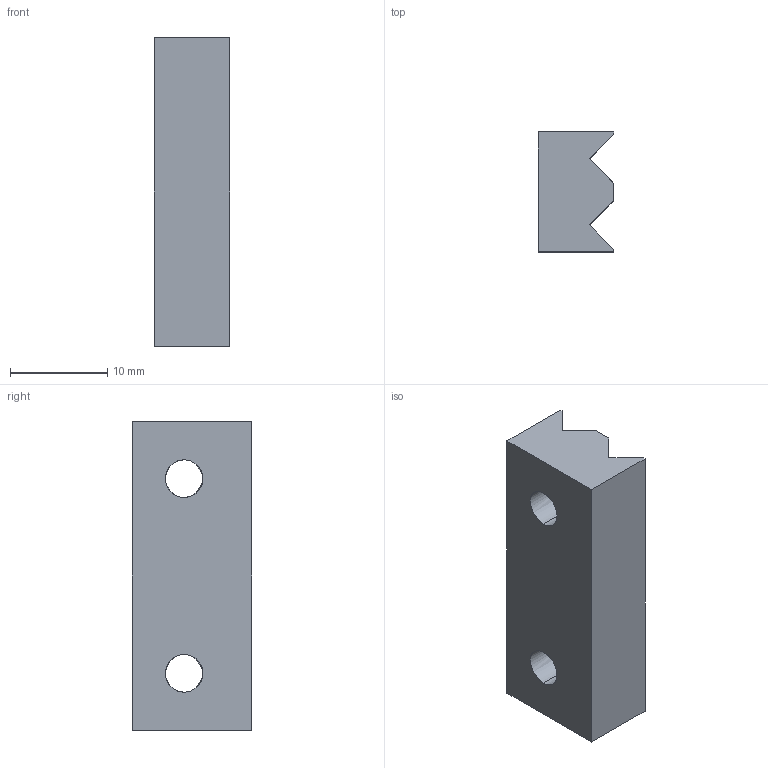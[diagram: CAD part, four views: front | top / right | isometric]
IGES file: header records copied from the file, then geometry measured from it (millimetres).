
Start section: SolidWorks IGES file using analytic representation for surfaces
Global section: file name: C:\Users\Shane\Desktop\ForeGrip-Retainer.IGS; native system: SolidWorks 2011; preprocessor: SolidWorks 2011; author: Shane; date: 120419.093328; units: inch
Bounding box: 7.77 x 12.29 x 31.75 mm (x, y, z)
Surface area: 1694.6 mm2 (no closed solid volume)
Topology: 0 solids, 0 shells, 18 faces, 244 edges, 244 vertices
Faces by surface type: bspline 14, revolution 4
